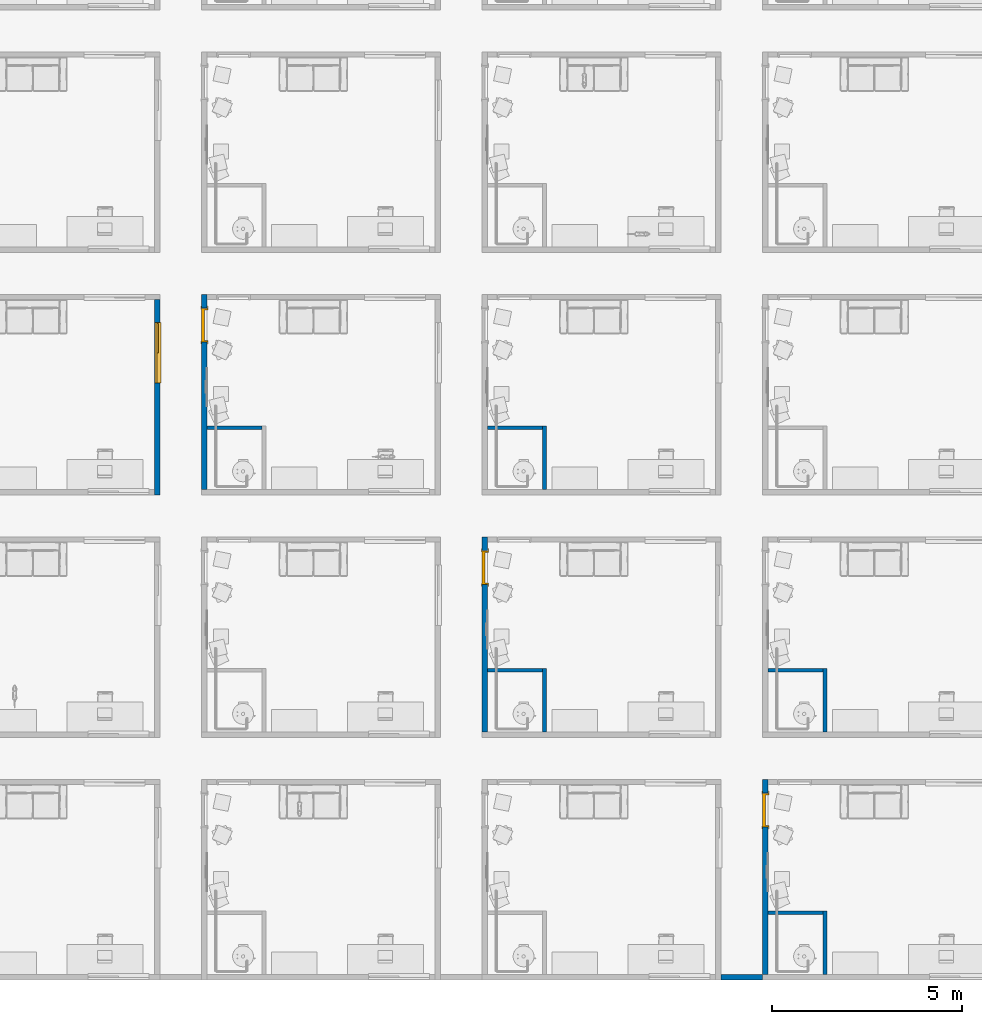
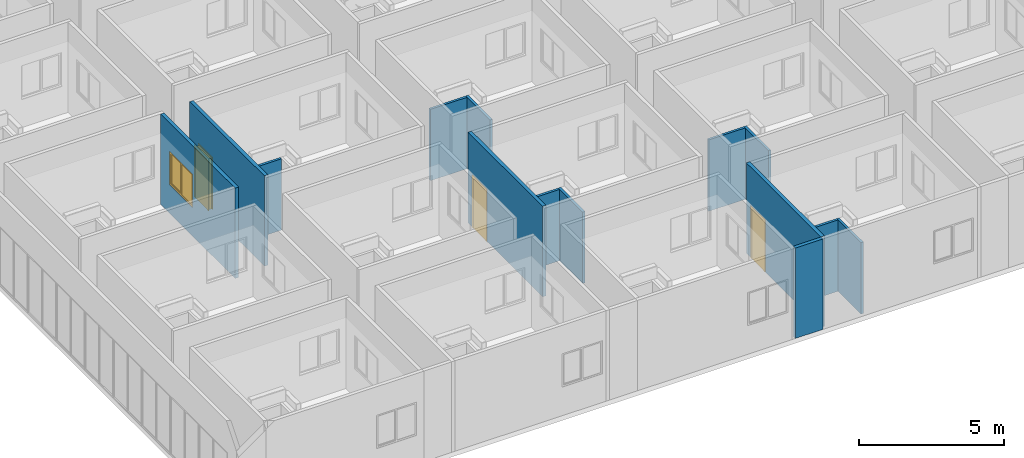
# One storey, part 7 of 71: 14 walls, 3 doors, 1 window, 4 openings.
"""IFC4 building model written with IfcOpenShell, lengths in centimetres."""

from ifc_helpers import new_model, entity, si_unit, converted_unit, derived_unit, direction, frame, origin, place, context, subcontext, project, spatial, indexed_curve, outline, extrude, polygons, source, transform, mapped, material, constituent, constituent_set, type_object, type_shapes, element, fill, save


model = new_model("IFC4")

# Units and contexts
model_context = context("Model", 3, precision=0.001, world=origin(), true_north=direction((6.123233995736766e-17, 1.0)))
body_context = subcontext(model_context, "Body", "Model", "MODEL_VIEW")
ifc_project = project(units=[si_unit("LENGTHUNIT", "METRE", prefix="CENTI"), si_unit("AREAUNIT", "SQUARE_METRE"), si_unit("VOLUMEUNIT", "CUBIC_METRE"), derived_unit("THERMALTRANSMITTANCEUNIT", [(si_unit("MASSUNIT", "GRAM", prefix="KILO"), 1), (si_unit("THERMODYNAMICTEMPERATUREUNIT", "KELVIN"), -1), (si_unit("TIMEUNIT", "SECOND"), -3)]), converted_unit("PLANEANGLEUNIT", "DEGREE", entity("IfcPlaneAngleMeasure", 0.017453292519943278), si_unit("PLANEANGLEUNIT", "RADIAN"), dimensions=[0, 0, 0, 0, 0, 0, 0]), derived_unit("MASSDENSITYUNIT", [(si_unit("MASSUNIT", "GRAM", prefix="KILO"), 1), (si_unit("LENGTHUNIT", "METRE"), -3)]), derived_unit("VAPORPERMEABILITYUNIT", [(si_unit("LENGTHUNIT", "METRE"), -1), (si_unit("TIMEUNIT", "SECOND"), 1)]), derived_unit("USERDEFINED", [(si_unit("MASSUNIT", "GRAM", prefix="KILO"), 1), (si_unit("TIMEUNIT", "SECOND"), -3), (si_unit("LENGTHUNIT", "METRE"), 3), (si_unit("ELECTRICCURRENTUNIT", "AMPERE"), -2)]), derived_unit("SPECIFICHEATCAPACITYUNIT", [(si_unit("THERMODYNAMICTEMPERATUREUNIT", "KELVIN"), -1), (si_unit("LENGTHUNIT", "METRE"), 2), (si_unit("TIMEUNIT", "SECOND"), -2)]), derived_unit("THERMALCONDUCTANCEUNIT", [(si_unit("MASSUNIT", "GRAM", prefix="KILO"), 1), (si_unit("THERMODYNAMICTEMPERATUREUNIT", "KELVIN"), -1), (si_unit("TIMEUNIT", "SECOND"), -3), (si_unit("LENGTHUNIT", "METRE"), 1)]), si_unit("PRESSUREUNIT", "PASCAL"), derived_unit("MODULUSOFELASTICITYUNIT", [(si_unit("MASSUNIT", "GRAM", prefix="KILO"), 1), (si_unit("LENGTHUNIT", "METRE"), -1), (si_unit("TIMEUNIT", "SECOND"), -2)]), derived_unit("THERMALEXPANSIONCOEFFICIENTUNIT", [(si_unit("THERMODYNAMICTEMPERATUREUNIT", "KELVIN"), -1)])], contexts=[model_context])

# Site, building, storey
site_placement = place(None, origin())
site = spatial("IfcSite", under=ifc_project, at=site_placement, Name="Default", CompositionType="ELEMENT")
building_placement = place(site_placement, origin())
building = spatial("IfcBuilding", under=site, at=building_placement, Name="IDS Escape Game Building", CompositionType="ELEMENT")
storey_placement = place(building_placement, frame((0.0, 0.0, 1200.0)))
storey = spatial("IfcBuildingStorey", under=building, at=storey_placement, Name="03_Third Floor", CompositionType="ELEMENT", Elevation=1200.0)

# Wall, opening, door
ifc_material_1 = material(Name="ARC_FME.g2_Fg2 Masonry_00_gen_BERSnl", Category="g - klei")
wall_type_1 = type_object("IfcWallType", Name="Basic Wall:ARC_22.10_WA_LB_SB14_gen_BERSnl", PredefinedType="STANDARD")
wall_1_placement = place(storey_placement, frame((2214.0, 527.0, 0.0), z_axis=(0.0, 0.0, 1.0), x_axis=(0.0, -1.0, 0.0)))
wall_1 = element("IfcWall", 1, at=wall_1_placement, inside=storey, type_object=wall_type_1, material=ifc_material_1, Name="Basic Wall:ARC_22.10_WA_LB_SB14_gen_BERSnl", ObjectType="Basic Wall:ARC_22.10_WA_LB_SB14_gen_BERSnl", PredefinedType="NOTDEFINED", context=body_context, shape_type="Tessellation", body=[
    polygons([(513.9999999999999, -6.999999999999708, 380.0), (0.0, -6.999999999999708, 380.0), (0.0, -6.999999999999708, 0.0), (35.99999999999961, -6.999999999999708, 0.0), (35.99999999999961, -6.999999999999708, 215.00000000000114), (125.99999999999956, -6.999999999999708, 215.00000000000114), (125.99999999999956, -6.999999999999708, 0.0), (513.9999999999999, -6.999999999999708, 0.0), (0.0, 7.000000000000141, 380.0), (13.999999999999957, 7.000000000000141, 380.0), (513.9999999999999, 7.000000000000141, 380.0), (513.9999999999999, 7.000000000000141, 0.0), (355.99999999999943, 7.000000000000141, 0.0), (345.99999999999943, 7.000000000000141, 0.0), (125.99999999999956, 7.000000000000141, 0.0), (125.99999999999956, 7.000000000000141, 215.00000000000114), (35.99999999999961, 7.000000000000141, 215.00000000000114), (35.99999999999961, 7.000000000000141, 0.0), (13.999999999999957, 7.000000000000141, 0.0), (0.0, 7.000000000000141, 0.0)], [[[1, 2, 3, 4, 5, 6, 7, 8]], [[9, 10, 11, 12, 13, 14, 15, 16, 17, 18, 19, 20]], [[3, 20, 19, 18, 4]], [[2, 1, 11, 10, 9]], [[17, 5, 4, 18]], [[6, 16, 15, 7]], [[5, 17, 16, 6]], [[3, 2, 9, 20]], [[1, 8, 12, 11]], [[12, 8, 7, 15, 14, 13]]], closed=True),
])
opening_1_placement = place(wall_1_placement, frame((527.0, -2214.0, 0.0), z_axis=(0.0, 0.0, 1.0), x_axis=(0.0, 1.0, 0.0)))
opening_1 = element("IfcOpeningElement", 2, at=opening_1_placement, cuts=wall_1, Name="Basic Wall:ARC_22.10_WA_LB_SB14_gen_BERSnl", PredefinedType="OPENING", context=body_context, shape_type="SweptSolid", body=[
    extrude(outline(indexed_curve([(-137.49999999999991, -45.0), (137.49999999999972, -45.0), (137.49999999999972, 44.99999999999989), (-137.49999999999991, 44.99999999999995), (-137.49999999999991, -45.0)], self_intersect=False)), frame((2124.0, 446.0, 77.50000000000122), z_axis=(1.0, 0.0, 0.0), x_axis=(0.0, 0.0, 1.0)), (0.0, 0.0, 1.0), 166.00000000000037),
])
ifc_material_2 = material(Name="ARC_FME.i3_wood_00_gen_BERSnl", Category="i - hout")
door_type = type_object("IfcDoorType", Name="ARC_32.30_DO_WB_binnendeur enkel draaiend met void_gen_BERSnl:Fire Exit_830x2115_EI60", OperationType="SINGLE_SWING_RIGHT", PredefinedType="DOOR", material=ifc_material_2)
shared_shape_1 = source(origin(), body_context, "Body", "Tessellation", [
    extrude(outline(indexed_curve([(-41.49999999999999, -3.749999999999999), (41.49999999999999, -3.749999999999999), (41.49999999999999, 3.75), (-41.49999999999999, 3.75), (-41.49999999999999, -3.749999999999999)], self_intersect=False)), frame((45.0, 79.24999999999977, 60.0), z_axis=(0.0, 0.0, 1.0), x_axis=(-1.0, 0.0, 0.0)), (0.0, 0.0, 1.0), 211.50000000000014),
    polygons([(88.99999999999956, 82.99999999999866, 59.999999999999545), (88.9999999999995, 67.99999999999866, 59.999999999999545), (94.99999999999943, 67.99999999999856, 59.999999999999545), (94.99999999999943, 66.49999999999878, 59.999999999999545), (84.99999999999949, 66.4999999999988, 59.999999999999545), (84.99999999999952, 75.49999999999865, 59.999999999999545), (86.49999999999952, 75.49999999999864, 59.999999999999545), (86.49999999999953, 84.49999999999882, 59.999999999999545), (94.99999999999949, 84.49999999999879, 59.999999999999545), (94.99999999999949, 82.99999999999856, 59.999999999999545), (88.99999999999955, 82.99999999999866, 274.0000000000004), (88.9999999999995, 67.99999999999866, 274.0000000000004), (0.9999999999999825, 67.99999999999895, 274.0000000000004), (0.9999999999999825, 67.99999999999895, 59.99999999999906), (-4.999999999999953, 67.99999999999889, 59.99999999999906), (-4.999999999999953, 67.99999999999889, 280.00000000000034), (94.99999999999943, 67.99999999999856, 280.00000000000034), (94.99999999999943, 66.49999999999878, 280.00000000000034), (-4.999999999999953, 66.4999999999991, 280.00000000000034), (-4.999999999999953, 66.4999999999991, 59.99999999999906), (4.999999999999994, 66.49999999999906, 59.99999999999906), (4.999999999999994, 66.49999999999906, 270.00000000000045), (84.99999999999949, 66.4999999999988, 270.00000000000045), (84.99999999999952, 75.49999999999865, 270.00000000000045), (5.000000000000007, 75.4999999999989, 270.00000000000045), (5.0, 75.4999999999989, 59.99999999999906), (3.5000000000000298, 75.4999999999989, 59.99999999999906), (3.500000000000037, 75.4999999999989, 271.50000000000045), (86.4999999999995, 75.49999999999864, 271.50000000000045), (86.49999999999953, 84.49999999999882, 271.50000000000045), (3.5000000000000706, 84.49999999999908, 271.50000000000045), (3.500000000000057, 84.49999999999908, 59.99999999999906), (-4.999999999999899, 84.4999999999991, 59.99999999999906), (-4.999999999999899, 84.4999999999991, 280.00000000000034), (94.99999999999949, 84.49999999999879, 280.00000000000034), (94.99999999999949, 82.99999999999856, 280.00000000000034), (-4.999999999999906, 82.99999999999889, 280.00000000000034), (-4.999999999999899, 82.99999999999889, 59.99999999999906), (1.0000000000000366, 82.99999999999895, 59.99999999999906), (1.0000000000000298, 82.99999999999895, 274.0000000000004)], [[[1, 2, 3, 4, 5, 6, 7, 8, 9, 10]], [[2, 1, 11, 12]], [[3, 2, 12, 13, 14, 15, 16, 17]], [[4, 3, 17, 18]], [[5, 4, 18, 19, 20, 21, 22, 23]], [[6, 5, 23, 24]], [[7, 6, 24, 25, 26, 27, 28, 29]], [[8, 7, 29, 30]], [[9, 8, 30, 31, 32, 33, 34, 35]], [[10, 9, 35, 36]], [[1, 10, 36, 37, 38, 39, 40, 11]], [[37, 34, 33, 38]], [[39, 38, 33, 32, 27, 26, 21, 20, 15, 14]], [[13, 40, 39, 14]], [[31, 28, 27, 32]], [[25, 22, 21, 26]], [[19, 16, 15, 20]], [[36, 35, 34, 37]], [[30, 29, 28, 31]], [[24, 23, 22, 25]], [[18, 17, 16, 19]], [[12, 11, 40, 13]]], closed=True),
])
type_shapes(door_type, [shared_shape_1])
door_1_placement = place(opening_1_placement, frame((2290.0, 401.0, -60.0), z_axis=(0.0, 0.0, 1.0), x_axis=(0.0, 1.0, 0.0)))
door_1 = element("IfcDoor", 3, at=door_1_placement, inside=storey, type_object=door_type, material=ifc_material_2, Name="ARC_32.30_DO_WB_binnendeur enkel draaiend met void_gen_BERSnl:Fire Exit_830x2115_EI60", ObjectType="ARC_32.30_DO_WB_binnendeur enkel draaiend met void_gen_BERSnl:Fire Exit_830x2115_EI60", OverallHeight=274.99999999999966, OverallWidth=89.9999999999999, PredefinedType="DOOR", context=body_context, shape_type="MappedRepresentation", body=[
    mapped(shared_shape_1, transform((0.0, 0.0, 0.0), scale=1.0)),
])
fill(opening_1, door_1)

wall_2_placement = place(storey_placement, frame((1476.0, 1165.0, 0.0), z_axis=(0.0, 0.0, 1.0), x_axis=(0.0, -1.0, 0.0)))
wall_2 = element("IfcWall", 4, at=wall_2_placement, inside=storey, type_object=wall_type_1, material=ifc_material_1, Name="Basic Wall:ARC_22.10_WA_LB_SB14_gen_BERSnl", ObjectType="Basic Wall:ARC_22.10_WA_LB_SB14_gen_BERSnl", PredefinedType="NOTDEFINED", context=body_context, shape_type="Tessellation", body=[
    polygons([(514.0000000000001, -7.000000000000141, 380.0), (0.0, -7.000000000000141, 380.0), (0.0, -7.000000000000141, 0.0), (35.99999999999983, -7.000000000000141, 0.0), (35.99999999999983, -7.000000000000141, 215.00000000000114), (125.99999999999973, -7.000000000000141, 215.00000000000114), (125.99999999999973, -7.000000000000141, 0.0), (514.0000000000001, -7.000000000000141, 0.0), (0.0, 7.000000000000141, 380.0), (14.000000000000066, 6.9999999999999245, 380.0), (514.0000000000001, 7.000000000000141, 380.0), (514.0000000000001, 7.000000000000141, 0.0), (355.99999999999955, 6.9999999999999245, 0.0), (345.9999999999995, 6.9999999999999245, 0.0), (125.99999999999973, 7.000000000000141, 0.0), (125.99999999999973, 7.000000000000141, 215.00000000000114), (35.99999999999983, 7.000000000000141, 215.00000000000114), (35.99999999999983, 7.000000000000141, 0.0), (14.000000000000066, 6.9999999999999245, 0.0), (0.0, 7.000000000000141, 0.0)], [[[1, 2, 3, 4, 5, 6, 7, 8]], [[9, 10, 11, 12, 13, 14, 15, 16, 17, 18, 19, 20]], [[3, 20, 19, 18, 4]], [[2, 1, 11, 10, 9]], [[17, 5, 4, 18]], [[6, 16, 15, 7]], [[5, 17, 16, 6]], [[3, 2, 9, 20]], [[1, 8, 12, 11]], [[12, 8, 7, 15, 14, 13]]], closed=True),
])
opening_2_placement = place(wall_2_placement, frame((1165.0, -1476.0, 0.0), z_axis=(0.0, 0.0, 1.0), x_axis=(0.0, 1.0, 0.0)))
opening_2 = element("IfcOpeningElement", 5, at=opening_2_placement, cuts=wall_2, Name="Basic Wall:ARC_22.10_WA_LB_SB14_gen_BERSnl", PredefinedType="OPENING", context=body_context, shape_type="SweptSolid", body=[
    extrude(outline(indexed_curve([(-137.49999999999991, -44.99999999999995), (137.49999999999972, -44.99999999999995), (137.49999999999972, 44.99999999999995), (-137.49999999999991, 44.99999999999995), (-137.49999999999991, -44.99999999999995)], self_intersect=False)), frame((1386.0, 1084.0, 77.50000000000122), z_axis=(1.0, 0.0, 0.0), x_axis=(0.0, 0.0, 1.0)), (0.0, 0.0, 1.0), 165.99999999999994),
])
door_2_placement = place(opening_2_placement, frame((1552.0, 1039.0, -60.0), z_axis=(0.0, 0.0, 1.0), x_axis=(0.0, 1.0, 0.0)))
door_2 = element("IfcDoor", 6, at=door_2_placement, inside=storey, type_object=door_type, material=ifc_material_2, Name="ARC_32.30_DO_WB_binnendeur enkel draaiend met void_gen_BERSnl:Fire Exit_830x2115_EI60", ObjectType="ARC_32.30_DO_WB_binnendeur enkel draaiend met void_gen_BERSnl:Fire Exit_830x2115_EI60", OverallHeight=274.99999999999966, OverallWidth=89.9999999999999, PredefinedType="DOOR", context=body_context, shape_type="MappedRepresentation", body=[
    mapped(shared_shape_1, transform((0.0, 0.0, 0.0), scale=1.0)),
])
fill(opening_2, door_2)

# Wall, opening, window
wall_3_placement = place(storey_placement, frame((614.0, 1275.0, 0.0), z_axis=(0.0, 0.0, 1.0), x_axis=(0.0, 1.0, 0.0)))
wall_3 = element("IfcWall", 7, at=wall_3_placement, inside=storey, type_object=wall_type_1, material=ifc_material_1, Name="Basic Wall:ARC_22.10_WA_LB_SB14_gen_BERSnl", ObjectType="Basic Wall:ARC_22.10_WA_LB_SB14_gen_BERSnl", PredefinedType="NOTDEFINED", context=body_context, shape_type="Tessellation", body=[
    polygons([(0.0, -6.9999999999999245, 0.0), (514.0000000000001, -6.9999999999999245, 0.0), (514.0000000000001, -6.9999999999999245, 380.0), (0.0, -6.9999999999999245, 380.0), (453.9999999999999, -6.999999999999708, 260.00000000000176), (454.00000000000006, -6.9999999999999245, 120.00000000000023), (294.00000000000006, -7.000000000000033, 120.00000000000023), (294.00000000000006, -6.999999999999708, 260.00000000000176), (454.00000000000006, 7.000000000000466, 120.00000000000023), (454.00000000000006, 7.000000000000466, 260.0), (294.00000000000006, 7.000000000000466, 260.0), (294.00000000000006, 7.000000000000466, 120.00000000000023), (0.0, 7.000000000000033, 0.0), (0.0, 7.000000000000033, 380.0), (14.000000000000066, 7.000000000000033, 380.0), (514.0000000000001, 7.000000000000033, 380.0), (514.0000000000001, 7.000000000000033, 0.0), (14.000000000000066, 7.000000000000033, 0.0)], [[[1, 2, 3, 4], [5, 6, 7, 8]], [[13, 14, 15, 16, 17, 18], [9, 10, 11, 12]], [[2, 1, 13, 18, 17]], [[4, 3, 16, 15, 14]], [[10, 9, 6, 5]], [[7, 12, 11, 8]], [[10, 5, 8, 11]], [[12, 7, 6, 9]], [[1, 4, 14, 13]], [[3, 2, 17, 16]]], closed=True),
])
opening_3_placement = place(wall_3_placement, frame((-1275.0, 614.0, 120.0), z_axis=(0.0, 0.0, 1.0), x_axis=(0.0, -1.0, 0.0)))
opening_3 = element("IfcOpeningElement", 8, at=opening_3_placement, cuts=wall_3, Name="Basic Wall:ARC_22.10_WA_LB_SB14_gen_BERSnl", PredefinedType="OPENING", context=body_context, shape_type="Tessellation", body=[
    polygons([(607.0, 1729.0000000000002, 2.2737367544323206e-13), (607.0, 1729.0000000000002, -1.0), (602.0, 1729.0000000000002, -1.0), (602.0, 1729.0000000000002, 2.2737367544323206e-13), (606.9999999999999, 1569.0000000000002, 2.2737367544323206e-13), (601.9999999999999, 1569.0000000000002, 2.2737367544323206e-13), (601.9999999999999, 1569.0000000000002, -1.0), (606.9999999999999, 1569.0000000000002, -1.0), (606.9999999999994, 1724.0000000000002, 0.0), (606.9999999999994, 1574.0000000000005, 0.0), (601.9999999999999, 1574.0000000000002, 2.2737367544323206e-13), (601.9999999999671, 1574.0000000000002, 135.0), (601.9999999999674, 1724.0000000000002, 135.0), (601.9999999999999, 1724.0000000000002, 2.2737367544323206e-13), (626.0368251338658, 1729.0000000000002, 2.2737367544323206e-13), (606.9999999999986, 1729.0000000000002, 2.2737367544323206e-13), (606.9999999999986, 1729.0000000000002, 140.00000000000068), (626.0368251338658, 1729.0000000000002, 140.00000000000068), (626.0368251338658, 1569.0000000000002, 140.0), (606.9999999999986, 1569.0000000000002, 140.0), (606.9999999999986, 1569.0000000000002, 2.2737367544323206e-13), (626.0368251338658, 1569.0000000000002, 2.2737367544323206e-13), (606.9999999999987, 1724.0000000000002, 135.0), (606.9999999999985, 1574.0000000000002, 135.0)], [[[1, 2, 3, 4]], [[5, 6, 7, 8]], [[1, 9, 10, 5, 8, 2]], [[2, 8, 7, 3]], [[3, 7, 6, 11, 12, 13, 14, 4]], [[4, 14, 9, 1]], [[15, 16, 17, 18]], [[19, 20, 21, 22]], [[18, 17, 20, 19]], [[18, 19, 22, 15]], [[17, 16, 9, 23, 24, 10, 21, 20]], [[22, 21, 10, 9, 16, 15]], [[11, 10, 24, 12]], [[13, 23, 9, 14]], [[12, 24, 23, 13]], [[5, 10, 11, 6]]], closed=True),
])
ifc_material_3 = material(Name="<Unnamed>")
ifc_constituent_1 = constituent(ifc_material_3, Name="<Unnamed>", fraction=0.0)
ifc_material_4 = material(Name="ARC_FME.o1_glass_00_gen_BERSnl", Category="o - glas")
ifc_constituent_2 = constituent(ifc_material_4, Name="ARC_FME.o1_glass_00_gen_BERSnl", Category="o - glas", fraction=1.0)
ifc_constituent_set_1 = constituent_set(constituents=[ifc_constituent_1, ifc_constituent_2])
ifc_constituent_3 = constituent(ifc_material_3, Name="BE Tablet", fraction=0.0)
ifc_constituent_4 = constituent(ifc_material_3, Name="Frame/Mullion", fraction=0.0)
ifc_constituent_5 = constituent(ifc_material_4, Name="Glass", Category="o - glas", fraction=1.0)
ifc_constituent_set_2 = constituent_set(constituents=[ifc_constituent_3, ifc_constituent_4, ifc_constituent_5])
window_type = type_object("IfcWindowType", Name="ARC_31_WI_WB_Dubbel Raam-Recht-Vast en Draaiend_gen_BERSnl:Links-Draaiend / Rechts-Draaiend", PartitioningType="NOTDEFINED", PredefinedType="WINDOW", material=ifc_constituent_set_2)
shared_shape_2 = source(origin(), body_context, "Body", "Tessellation", [
    extrude(outline(indexed_curve([(-80.00000000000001, -4.999999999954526), (80.00000000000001, -4.999999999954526), (80.00000000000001, 4.999999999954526), (-80.00000000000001, 4.999999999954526), (-80.00000000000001, -4.999999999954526)], self_intersect=False)), frame((80.0, 7.036825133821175, 1.0), z_axis=(0.0, 0.0, 1.0), x_axis=(-1.0, 0.0, 0.0)), (0.0, 0.0, 1.0), 2.000000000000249),
    extrude(outline(indexed_curve([(-2.9999999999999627, -3.000000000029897), (-7.656209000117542e-14, -3.000000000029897), (-7.064016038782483e-14, 5.979964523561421e-11), (3.0000000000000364, 5.978991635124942e-11), (3.0000000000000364, 2.9999999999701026), (-2.9999999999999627, 2.9999999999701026), (-2.9999999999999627, -3.000000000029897)], self_intersect=False)), frame((80.0, 15.03682513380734, 7.0)), (0.0, 0.0, 1.0), 128.00000000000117),
    extrude(outline(indexed_curve([(-35.499999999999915, -1.2000000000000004), (35.499999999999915, -1.2000000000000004), (35.49999999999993, 1.2), (-35.499999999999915, 1.2), (-35.499999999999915, -1.2000000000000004)], self_intersect=False)), frame((41.50000000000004, 15.036825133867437, 7.0), z_axis=(0.0, 0.0, 1.0), x_axis=(-1.0, 0.0, 0.0)), (0.0, 0.0, 1.0), 128.000000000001),
    extrude(outline(indexed_curve([(-67.00000000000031, -38.500000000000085), (67.00000000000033, -38.5000000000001), (67.00000000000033, 38.50000000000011), (-67.00000000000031, 38.50000000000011), (-67.00000000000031, -38.500000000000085)], self_intersect=False), holes=[indexed_curve([(61.00000000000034, -32.50000000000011), (-61.00000000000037, -32.500000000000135), (-61.00000000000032, 32.50000000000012), (61.00000000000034, 32.50000000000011), (61.00000000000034, -32.50000000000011)], self_intersect=False)]), frame((118.5, 9.03682513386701, 71.0), z_axis=(0.0, 1.0, 0.0), x_axis=(0.0, 0.0, -1.0)), (0.0, 0.0, 1.0), 6.0),
    extrude(outline(indexed_curve([(-32.500000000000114, -1.2000000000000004), (32.500000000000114, -1.2000000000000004), (32.500000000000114, 1.2000000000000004), (-32.500000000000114, 1.2000000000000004), (-32.500000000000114, -1.2000000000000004)], self_intersect=False)), frame((118.5, 12.036825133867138, 10.0), z_axis=(0.0, 0.0, 1.0), x_axis=(-1.0, 0.0, 0.0)), (0.0, 0.0, 1.0), 122.00000000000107),
    polygons([(160.00000000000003, 18.03682513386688, 141.00000000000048), (160.00000000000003, 18.03682513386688, 1.0000000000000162), (4.0607517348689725e-14, 18.036825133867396, 1.0000000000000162), (4.0607517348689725e-14, 18.036825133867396, 141.00000000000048), (6.000000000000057, 18.03682513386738, 135.00000000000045), (6.000000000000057, 18.03682513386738, 7.000000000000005), (76.99999999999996, 18.03682513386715, 7.000000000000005), (154.00000000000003, 18.0368251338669, 7.000000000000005), (154.00000000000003, 18.0368251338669, 135.00000000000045), (76.99999999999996, 18.03682513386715, 135.00000000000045), (160.0, 12.03682513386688, 141.00000000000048), (160.0, 12.03682513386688, 1.0000000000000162), (2.7071678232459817e-14, 12.036825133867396, 1.0000000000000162), (2.7071678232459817e-14, 12.036825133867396, 141.00000000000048), (6.000000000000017, 12.036825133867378, 135.00000000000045), (6.000000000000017, 12.036825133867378, 7.000000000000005), (76.99999999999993, 12.036825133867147, 7.000000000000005), (79.99999999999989, 12.036825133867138, 7.000000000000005), (79.9999999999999, 15.036825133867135, 7.000000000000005), (154.00000000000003, 15.0368251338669, 7.000000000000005), (154.00000000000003, 15.036825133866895, 135.00000000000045), (76.99999999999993, 12.036825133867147, 135.00000000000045), (79.99999999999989, 12.036825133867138, 135.00000000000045), (79.99999999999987, 12.036825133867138, 138.00000000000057), (157.00000000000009, 12.036825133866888, 138.00000000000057), (157.00000000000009, 12.036825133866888, 3.9999999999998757), (79.99999999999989, 12.036825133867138, 3.9999999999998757), (157.0000000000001, 15.036825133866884, 3.9999999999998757), (157.0000000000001, 15.036825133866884, 138.00000000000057), (79.99999999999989, 15.036825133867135, 3.9999999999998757), (79.99999999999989, 15.036825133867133, 138.00000000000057), (79.99999999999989, 15.036825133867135, 135.00000000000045)], [[[1, 2, 3, 4], [5, 6, 7, 8, 9, 10]], [[2, 1, 11, 12]], [[3, 2, 12, 13]], [[4, 3, 13, 14]], [[6, 5, 15, 16]], [[6, 16, 17, 18, 19, 20, 8, 7]], [[9, 8, 20, 21]], [[11, 14, 13, 12], [16, 15, 22, 23, 24, 25, 26, 27, 18, 17]], [[28, 26, 25, 29]], [[30, 27, 26, 28]], [[31, 24, 23, 32]], [[30, 28, 29, 31, 32, 21, 20, 19]], [[1, 4, 14, 11]], [[15, 5, 10, 9, 21, 32, 23, 22]], [[24, 31, 29, 25]], [[27, 30, 19, 18]]], closed=True),
])
type_shapes(window_type, [shared_shape_2])
window_placement = place(opening_3_placement, frame((626.0368251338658, 1569.0, -1.0), z_axis=(0.0, 0.0, 1.0), x_axis=(0.0, 1.0, 0.0)))
window = element("IfcWindow", 9, at=window_placement, inside=storey, type_object=window_type, material=ifc_constituent_set_1, Name="ARC_31_WI_WB_Dubbel Raam-Recht-Vast en Draaiend_gen_BERSnl:Links-Draaiend / Rechts-Draaiend", ObjectType="ARC_31_WI_WB_Dubbel Raam-Recht-Vast en Draaiend_gen_BERSnl:Links-Draaiend / Rechts-Draaiend", OverallHeight=140.00000000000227, OverallWidth=160.0000000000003, PartitioningType="NOTDEFINED", PredefinedType="WINDOW", context=body_context, shape_type="MappedRepresentation", body=[
    mapped(shared_shape_2, transform((0.0, 0.0, 0.0), scale=1.0)),
])
fill(opening_3, window)

# Wall, opening, door
wall_4_placement = place(storey_placement, frame((738.0, 1803.0, 0.0), z_axis=(0.0, 0.0, 1.0), x_axis=(0.0, -1.0, 0.0)))
wall_4 = element("IfcWall", 10, at=wall_4_placement, inside=storey, type_object=wall_type_1, material=ifc_material_1, Name="Basic Wall:ARC_22.10_WA_LB_SB14_gen_BERSnl", ObjectType="Basic Wall:ARC_22.10_WA_LB_SB14_gen_BERSnl", PredefinedType="NOTDEFINED", context=body_context, shape_type="Tessellation", body=[
    polygons([(514.0000000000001, -6.9999999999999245, 380.0), (-2.1657342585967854e-13, -6.9999999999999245, 380.0), (-2.1657342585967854e-13, -6.9999999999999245, 0.0), (35.99999999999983, -6.9999999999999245, 0.0), (35.99999999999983, -6.9999999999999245, 215.00000000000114), (125.9999999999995, -6.9999999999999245, 215.00000000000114), (125.9999999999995, -6.9999999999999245, 0.0), (514.0000000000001, -6.9999999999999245, 0.0), (-2.1657342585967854e-13, 7.000000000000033, 380.0), (14.000000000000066, 7.000000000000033, 380.0), (514.0000000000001, 7.000000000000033, 380.0), (514.0000000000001, 7.000000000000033, 0.0), (355.99999999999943, 7.000000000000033, 0.0), (345.9999999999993, 7.000000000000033, 0.0), (125.9999999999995, 7.000000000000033, 0.0), (125.9999999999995, 7.000000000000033, 215.00000000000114), (35.99999999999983, 7.000000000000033, 215.00000000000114), (35.99999999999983, 7.000000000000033, 0.0), (14.000000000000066, 7.000000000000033, 0.0), (-2.1657342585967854e-13, 7.000000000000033, 0.0)], [[[1, 2, 3, 4, 5, 6, 7, 8]], [[9, 10, 11, 12, 13, 14, 15, 16, 17, 18, 19, 20]], [[3, 20, 19, 18, 4]], [[2, 1, 11, 10, 9]], [[17, 5, 4, 18]], [[6, 16, 15, 7]], [[5, 17, 16, 6]], [[3, 2, 9, 20]], [[1, 8, 12, 11]], [[12, 8, 7, 15, 14, 13]]], closed=True),
])
opening_4_placement = place(wall_4_placement, frame((1803.0, -738.0, 0.0), z_axis=(0.0, 0.0, 1.0), x_axis=(0.0, 1.0, 0.0)))
opening_4 = element("IfcOpeningElement", 11, at=opening_4_placement, cuts=wall_4, Name="Basic Wall:ARC_22.10_WA_LB_SB14_gen_BERSnl", PredefinedType="OPENING", context=body_context, shape_type="SweptSolid", body=[
    extrude(outline(indexed_curve([(-137.49999999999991, -44.99999999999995), (137.49999999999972, -44.99999999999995), (137.49999999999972, 44.99999999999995), (-137.49999999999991, 44.99999999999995), (-137.49999999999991, -44.99999999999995)], self_intersect=False)), frame((648.0, 1722.0, 77.50000000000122), z_axis=(1.0, 0.0, 0.0), x_axis=(0.0, 0.0, 1.0)), (0.0, 0.0, 1.0), 165.99999999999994),
])
door_3_placement = place(opening_4_placement, frame((814.0, 1677.0, -60.0), z_axis=(0.0, 0.0, 1.0), x_axis=(0.0, 1.0, 0.0)))
door_3 = element("IfcDoor", 12, at=door_3_placement, inside=storey, type_object=door_type, material=ifc_material_2, Name="ARC_32.30_DO_WB_binnendeur enkel draaiend met void_gen_BERSnl:Fire Exit_830x2115_EI60", ObjectType="ARC_32.30_DO_WB_binnendeur enkel draaiend met void_gen_BERSnl:Fire Exit_830x2115_EI60", OverallHeight=274.99999999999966, OverallWidth=89.9999999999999, PredefinedType="DOOR", context=body_context, shape_type="MappedRepresentation", body=[
    mapped(shared_shape_1, transform((0.0, 0.0, 0.0), scale=1.0)),
])
fill(opening_4, door_3)

# Walls
wall_5_placement = place(storey_placement, frame((2207.0, 6.0, 0.0), z_axis=(0.0, 0.0, 1.0), x_axis=(-1.0, 0.0, 0.0)))
element("IfcWall", 13, at=wall_5_placement, inside=storey, type_object=wall_type_1, material=ifc_material_1, Name="Basic Wall:ARC_22.10_WA_LB_SB14_gen_BERSnl", ObjectType="Basic Wall:ARC_22.10_WA_LB_SB14_gen_BERSnl", PredefinedType="NOTDEFINED", context=body_context, shape_type="SweptSolid", body=[
    extrude(outline(indexed_curve([(110.00000000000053, 7.000000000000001), (-2.2611003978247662e-14, 7.0), (2.2611003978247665e-14, -7.000000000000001), (110.00000000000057, -7.000000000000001), (110.00000000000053, 7.000000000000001)], self_intersect=False)), origin(), (0.0, 0.0, 1.0), 380.0000000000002),
])
ifc_material_5 = material(Name="ARC_FME.r2_Plaster_white_gen_BERSnl", Category="r - klei, gips, magnesium en kunststof bindmiddelen")
wall_type_2 = type_object("IfcWallType", Name="Basic Wall:ARC_22.10_WA_LB_GPS10_gen_BERSnl", PredefinedType="STANDARD")
wall_6_placement = place(storey_placement, frame((2371.0, 13.0, 0.0), z_axis=(0.0, 0.0, 1.0), x_axis=(0.0, 1.0, 0.0)))
element("IfcWall", 14, at=wall_6_placement, inside=storey, type_object=wall_type_2, material=ifc_material_5, Name="Basic Wall:ARC_22.10_WA_LB_GPS10_gen_BERSnl", ObjectType="Basic Wall:ARC_22.10_WA_LB_GPS10_gen_BERSnl", PredefinedType="NOTDEFINED", context=body_context, shape_type="SweptSolid", body=[
    extrude(outline(indexed_curve([(168.00000000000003, 4.9999999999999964), (-1.1881077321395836e-15, 5.0000000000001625), (-5.038721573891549e-16, -5.0000000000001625), (168.00000000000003, -5.000000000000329), (168.00000000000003, 4.9999999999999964)], self_intersect=False)), origin(), (0.0, 0.0, 1.0), 300.0000000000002),
])
wall_7_placement = place(storey_placement, frame((2366.0, 176.0, 0.0), z_axis=(0.0, 0.0, 1.0), x_axis=(-1.0, 0.0, 0.0)))
element("IfcWall", 15, at=wall_7_placement, inside=storey, type_object=wall_type_2, material=ifc_material_5, Name="Basic Wall:ARC_22.10_WA_LB_GPS10_gen_BERSnl", ObjectType="Basic Wall:ARC_22.10_WA_LB_GPS10_gen_BERSnl", PredefinedType="NOTDEFINED", context=body_context, shape_type="SweptSolid", body=[
    extrude(outline(indexed_curve([(144.99999999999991, 5.000000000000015), (-1.6380951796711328e-14, 5.0), (1.6380951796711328e-14, -5.0), (144.99999999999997, -4.999999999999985), (144.99999999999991, 5.000000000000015)], self_intersect=False)), origin(), (0.0, 0.0, 1.0), 300.0000000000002),
])
wall_8_placement = place(storey_placement, frame((1633.0, 651.0, 0.0), z_axis=(0.0, 0.0, 1.0), x_axis=(0.0, 1.0, 0.0)))
element("IfcWall", 16, at=wall_8_placement, inside=storey, type_object=wall_type_2, material=ifc_material_5, Name="Basic Wall:ARC_22.10_WA_LB_GPS10_gen_BERSnl", ObjectType="Basic Wall:ARC_22.10_WA_LB_GPS10_gen_BERSnl", PredefinedType="NOTDEFINED", context=body_context, shape_type="SweptSolid", body=[
    extrude(outline(indexed_curve([(168.00000000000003, 4.9999999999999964), (-7.956027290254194e-15, 4.999999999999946), (7.956027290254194e-15, -4.999999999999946), (168.00000000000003, -4.999999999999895), (168.00000000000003, 4.9999999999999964)], self_intersect=False)), origin(), (0.0, 0.0, 1.0), 300.0000000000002),
])
wall_9_placement = place(storey_placement, frame((1628.0, 814.0, 0.0), z_axis=(0.0, 0.0, 1.0), x_axis=(-1.0, 0.0, 0.0)))
element("IfcWall", 17, at=wall_9_placement, inside=storey, type_object=wall_type_2, material=ifc_material_5, Name="Basic Wall:ARC_22.10_WA_LB_GPS10_gen_BERSnl", ObjectType="Basic Wall:ARC_22.10_WA_LB_GPS10_gen_BERSnl", PredefinedType="NOTDEFINED", context=body_context, shape_type="SweptSolid", body=[
    extrude(outline(indexed_curve([(145.00000000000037, 4.99999999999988), (-1.6380951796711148e-14, 4.999999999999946), (1.6380951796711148e-14, -4.999999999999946), (145.00000000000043, -5.000000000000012), (145.00000000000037, 4.99999999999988)], self_intersect=False)), origin(), (0.0, 0.0, 1.0), 300.0000000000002),
])
wall_10_placement = place(storey_placement, frame((2371.0, 651.0, 0.0), z_axis=(0.0, 0.0, 1.0), x_axis=(0.0, 1.0, 0.0)))
element("IfcWall", 18, at=wall_10_placement, inside=storey, type_object=wall_type_2, material=ifc_material_5, Name="Basic Wall:ARC_22.10_WA_LB_GPS10_gen_BERSnl", ObjectType="Basic Wall:ARC_22.10_WA_LB_GPS10_gen_BERSnl", PredefinedType="NOTDEFINED", context=body_context, shape_type="SweptSolid", body=[
    extrude(outline(indexed_curve([(168.00000000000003, 4.9999999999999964), (-7.956027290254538e-15, 5.0000000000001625), (7.956027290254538e-15, -5.0000000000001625), (168.00000000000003, -5.000000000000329), (168.00000000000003, 4.9999999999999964)], self_intersect=False)), origin(), (0.0, 0.0, 1.0), 300.0000000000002),
])
wall_11_placement = place(storey_placement, frame((2366.0, 814.0, 0.0), z_axis=(0.0, 0.0, 1.0), x_axis=(-1.0, 0.0, 0.0)))
element("IfcWall", 19, at=wall_11_placement, inside=storey, type_object=wall_type_2, material=ifc_material_5, Name="Basic Wall:ARC_22.10_WA_LB_GPS10_gen_BERSnl", ObjectType="Basic Wall:ARC_22.10_WA_LB_GPS10_gen_BERSnl", PredefinedType="NOTDEFINED", context=body_context, shape_type="SweptSolid", body=[
    extrude(outline(indexed_curve([(144.99999999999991, 4.99999999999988), (-1.6380951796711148e-14, 4.999999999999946), (1.6380951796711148e-14, -4.999999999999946), (144.99999999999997, -5.000000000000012), (144.99999999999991, 4.99999999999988)], self_intersect=False)), origin(), (0.0, 0.0, 1.0), 300.0000000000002),
])
wall_12_placement = place(storey_placement, frame((890.0, 1452.0, 0.0), z_axis=(0.0, 0.0, 1.0), x_axis=(-1.0, 0.0, 0.0)))
element("IfcWall", 20, at=wall_12_placement, inside=storey, type_object=wall_type_2, material=ifc_material_5, Name="Basic Wall:ARC_22.10_WA_LB_GPS10_gen_BERSnl", ObjectType="Basic Wall:ARC_22.10_WA_LB_GPS10_gen_BERSnl", PredefinedType="NOTDEFINED", context=body_context, shape_type="SweptSolid", body=[
    extrude(outline(indexed_curve([(145.00000000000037, 4.9999999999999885), (-1.6380951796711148e-14, 4.999999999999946), (1.6380951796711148e-14, -4.999999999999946), (145.00000000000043, -4.999999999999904), (145.00000000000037, 4.9999999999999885)], self_intersect=False)), origin(), (0.0, 0.0, 1.0), 300.0000000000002),
])
wall_13_placement = place(storey_placement, frame((1633.0, 1289.0, 0.0), z_axis=(0.0, 0.0, 1.0), x_axis=(0.0, 1.0, 0.0)))
element("IfcWall", 21, at=wall_13_placement, inside=storey, type_object=wall_type_2, material=ifc_material_5, Name="Basic Wall:ARC_22.10_WA_LB_GPS10_gen_BERSnl", ObjectType="Basic Wall:ARC_22.10_WA_LB_GPS10_gen_BERSnl", PredefinedType="NOTDEFINED", context=body_context, shape_type="SweptSolid", body=[
    extrude(outline(indexed_curve([(168.00000000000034, 4.9999999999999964), (-7.956027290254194e-15, 4.999999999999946), (7.956027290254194e-15, -4.999999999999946), (168.00000000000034, -4.999999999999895), (168.00000000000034, 4.9999999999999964)], self_intersect=False)), origin(), (0.0, 0.0, 1.0), 300.0000000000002),
])
wall_14_placement = place(storey_placement, frame((1628.0, 1452.0, 0.0), z_axis=(0.0, 0.0, 1.0), x_axis=(-1.0, 0.0, 0.0)))
element("IfcWall", 22, at=wall_14_placement, inside=storey, type_object=wall_type_2, material=ifc_material_5, Name="Basic Wall:ARC_22.10_WA_LB_GPS10_gen_BERSnl", ObjectType="Basic Wall:ARC_22.10_WA_LB_GPS10_gen_BERSnl", PredefinedType="NOTDEFINED", context=body_context, shape_type="SweptSolid", body=[
    extrude(outline(indexed_curve([(145.00000000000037, 4.9999999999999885), (-1.6380951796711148e-14, 4.999999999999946), (1.6380951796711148e-14, -4.999999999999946), (145.00000000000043, -4.999999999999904), (145.00000000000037, 4.9999999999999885)], self_intersect=False)), origin(), (0.0, 0.0, 1.0), 300.0000000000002),
])

save(model, "model.ifc")
